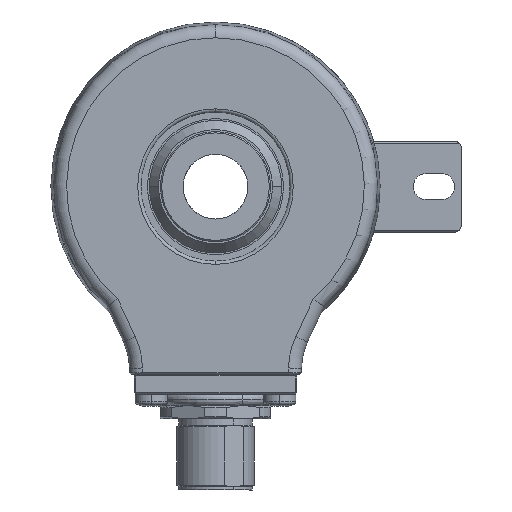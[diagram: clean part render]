
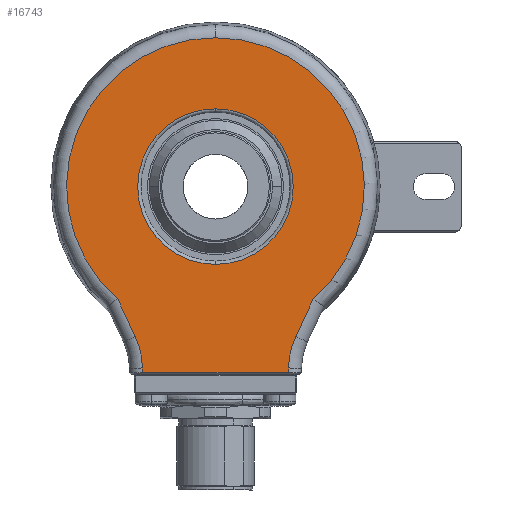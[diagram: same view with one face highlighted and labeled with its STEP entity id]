
A CAD part, left-side view. The second image highlights one B-rep face of the part: STEP entity #16743.
In plain terms, the highlighted planar face has unit normal (-1, 0, 0).
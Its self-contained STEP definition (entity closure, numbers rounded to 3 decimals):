
#173 = DIRECTION ( 'NONE',  ( 0., 0., 1. ) ) ;
#455 = ORIENTED_EDGE ( 'NONE', *, *, #21851, .T. ) ;
#789 = LINE ( 'NONE', #3623, #10802 ) ;
#882 = PLANE ( 'NONE',  #2662 ) ;
#1188 = VERTEX_POINT ( 'NONE', #14754 ) ;
#1635 = ORIENTED_EDGE ( 'NONE', *, *, #19167, .T. ) ;
#1773 = CARTESIAN_POINT ( 'NONE',  ( -21., 11.268, -27.974 ) ) ;
#2348 = VERTEX_POINT ( 'NONE', #17985 ) ;
#2497 = CARTESIAN_POINT ( 'NONE',  ( -21., 0., 0. ) ) ;
#2662 = AXIS2_PLACEMENT_3D ( 'NONE', #24840, #2837, #2915 ) ;
#2837 = DIRECTION ( 'NONE',  ( 1., 0., 0. ) ) ;
#2889 = DIRECTION ( 'NONE',  ( 0., -0.423, 0.906 ) ) ;
#2915 = DIRECTION ( 'NONE',  ( 0., 0., 1. ) ) ;
#2980 = CIRCLE ( 'NONE', #17815, 22.972 ) ;
#3000 = CIRCLE ( 'NONE', #10569, 12. ) ;
#3441 = CARTESIAN_POINT ( 'NONE',  ( -21., 0., 0. ) ) ;
#3623 = CARTESIAN_POINT ( 'NONE',  ( -21., -11.752, -0.205 ) ) ;
#4454 = CIRCLE ( 'NONE', #6305, 12. ) ;
#4520 = DIRECTION ( 'NONE',  ( 0., 0., 1. ) ) ;
#4675 = CIRCLE ( 'NONE', #21587, 12. ) ;
#4890 = VECTOR ( 'NONE', #2889, 1000. ) ;
#5021 = EDGE_CURVE ( 'NONE', #19527, #25865, #10044, .T. ) ;
#5454 = DIRECTION ( 'NONE',  ( 0., 0., 1. ) ) ;
#5725 = CARTESIAN_POINT ( 'NONE',  ( -21., 23.266, -28.183 ) ) ;
#6164 = CARTESIAN_POINT ( 'NONE',  ( -21., 0., 0. ) ) ;
#6201 = VECTOR ( 'NONE', #21704, 1000. ) ;
#6305 = AXIS2_PLACEMENT_3D ( 'NONE', #5725, #19715, #7711 ) ;
#7120 = CARTESIAN_POINT ( 'NONE',  ( -21., -11.255, -28.695 ) ) ;
#7698 = CARTESIAN_POINT ( 'NONE',  ( -21., 12.39, -23.112 ) ) ;
#7700 = ORIENTED_EDGE ( 'NONE', *, *, #23370, .T. ) ;
#7711 = DIRECTION ( 'NONE',  ( 0., 0., 1. ) ) ;
#7771 = CARTESIAN_POINT ( 'NONE',  ( -21., 12.39, -23.112 ) ) ;
#7945 = VERTEX_POINT ( 'NONE', #14803 ) ;
#8172 = DIRECTION ( 'NONE',  ( 0., 0., 1. ) ) ;
#8524 = VERTEX_POINT ( 'NONE', #1773 ) ;
#8728 = ORIENTED_EDGE ( 'NONE', *, *, #25199, .T. ) ;
#8977 = CARTESIAN_POINT ( 'NONE',  ( -21., -12.39, -23.112 ) ) ;
#9460 = CIRCLE ( 'NONE', #21720, 12. ) ;
#9463 = EDGE_CURVE ( 'NONE', #10718, #2348, #20248, .T. ) ;
#9547 = LINE ( 'NONE', #17565, #24828 ) ;
#9583 = CARTESIAN_POINT ( 'NONE',  ( -21., 15.091, -17.32 ) ) ;
#10044 = CIRCLE ( 'NONE', #11495, 22.972 ) ;
#10102 = ORIENTED_EDGE ( 'NONE', *, *, #22785, .T. ) ;
#10104 = VERTEX_POINT ( 'NONE', #7120 ) ;
#10117 = DIRECTION ( 'NONE',  ( 0., -0.017, -1. ) ) ;
#10569 = AXIS2_PLACEMENT_3D ( 'NONE', #24143, #12164, #173 ) ;
#10718 = VERTEX_POINT ( 'NONE', #8977 ) ;
#10802 = VECTOR ( 'NONE', #13583, 1000. ) ;
#10946 = EDGE_CURVE ( 'NONE', #2348, #19527, #2980, .T. ) ;
#11487 = CARTESIAN_POINT ( 'NONE',  ( -21., 0., 22.972 ) ) ;
#11491 = LINE ( 'NONE', #7698, #6201 ) ;
#11495 = AXIS2_PLACEMENT_3D ( 'NONE', #6164, #20168, #8172 ) ;
#11584 = DIRECTION ( 'NONE',  ( 0., -1., 0. ) ) ;
#11680 = FACE_OUTER_BOUND ( 'NONE', #14691, .T. ) ;
#11734 = CARTESIAN_POINT ( 'NONE',  ( -21., 0., 0. ) ) ;
#12164 = DIRECTION ( 'NONE',  ( 1., 0., 0. ) ) ;
#13488 = ORIENTED_EDGE ( 'NONE', *, *, #9463, .T. ) ;
#13583 = DIRECTION ( 'NONE',  ( 0., -0.017, 1. ) ) ;
#13600 = EDGE_CURVE ( 'NONE', #13642, #1188, #9460, .T. ) ;
#13642 = VERTEX_POINT ( 'NONE', #13944 ) ;
#13762 = DIRECTION ( 'NONE',  ( 0., 0., 1. ) ) ;
#13944 = CARTESIAN_POINT ( 'NONE',  ( -21., 0., -12. ) ) ;
#14691 = EDGE_LOOP ( 'NONE', ( #1635, #10102, #15407, #455, #13488, #19302, #23983, #25320, #7700 ) ) ;
#14754 = CARTESIAN_POINT ( 'NONE',  ( -21., 0., 12. ) ) ;
#14803 = CARTESIAN_POINT ( 'NONE',  ( -21., -11.268, -27.974 ) ) ;
#15407 = ORIENTED_EDGE ( 'NONE', *, *, #21668, .T. ) ;
#15580 = VERTEX_POINT ( 'NONE', #23603 ) ;
#15622 = VERTEX_POINT ( 'NONE', #7771 ) ;
#16480 = DIRECTION ( 'NONE',  ( -1., 0., 0. ) ) ;
#16570 = LINE ( 'NONE', #22125, #22533 ) ;
#16743 = ADVANCED_FACE ( 'NONE', ( #17656, #11680 ), #882, .F. ) ;
#17005 = EDGE_LOOP ( 'NONE', ( #8728, #24278 ) ) ;
#17430 = DIRECTION ( 'NONE',  ( 1., 0., 0. ) ) ;
#17565 = CARTESIAN_POINT ( 'NONE',  ( -21., -11.25, -28.695 ) ) ;
#17656 = FACE_BOUND ( 'NONE', #17005, .T. ) ;
#17815 = AXIS2_PLACEMENT_3D ( 'NONE', #2497, #16480, #4520 ) ;
#17985 = CARTESIAN_POINT ( 'NONE',  ( -21., -15.091, -17.32 ) ) ;
#19167 = EDGE_CURVE ( 'NONE', #8524, #15580, #16570, .T. ) ;
#19302 = ORIENTED_EDGE ( 'NONE', *, *, #10946, .T. ) ;
#19527 = VERTEX_POINT ( 'NONE', #11487 ) ;
#19715 = DIRECTION ( 'NONE',  ( 1., 0., 0. ) ) ;
#20168 = DIRECTION ( 'NONE',  ( -1., 0., 0. ) ) ;
#20248 = LINE ( 'NONE', #22825, #4890 ) ;
#20531 = EDGE_CURVE ( 'NONE', #25865, #15622, #11491, .T. ) ;
#21587 = AXIS2_PLACEMENT_3D ( 'NONE', #3441, #17430, #5454 ) ;
#21668 = EDGE_CURVE ( 'NONE', #10104, #7945, #789, .T. ) ;
#21704 = DIRECTION ( 'NONE',  ( 0., -0.423, -0.906 ) ) ;
#21720 = AXIS2_PLACEMENT_3D ( 'NONE', #11734, #25707, #13762 ) ;
#21851 = EDGE_CURVE ( 'NONE', #7945, #10718, #3000, .T. ) ;
#22125 = CARTESIAN_POINT ( 'NONE',  ( -21., 11.752, -0.205 ) ) ;
#22533 = VECTOR ( 'NONE', #10117, 1000. ) ;
#22785 = EDGE_CURVE ( 'NONE', #15580, #10104, #9547, .T. ) ;
#22825 = CARTESIAN_POINT ( 'NONE',  ( -21., -14.953, -17.615 ) ) ;
#23370 = EDGE_CURVE ( 'NONE', #15622, #8524, #4454, .T. ) ;
#23603 = CARTESIAN_POINT ( 'NONE',  ( -21., 11.255, -28.695 ) ) ;
#23983 = ORIENTED_EDGE ( 'NONE', *, *, #5021, .T. ) ;
#24143 = CARTESIAN_POINT ( 'NONE',  ( -21., -23.266, -28.183 ) ) ;
#24278 = ORIENTED_EDGE ( 'NONE', *, *, #13600, .T. ) ;
#24828 = VECTOR ( 'NONE', #11584, 1000. ) ;
#24840 = CARTESIAN_POINT ( 'NONE',  ( -21., 0., 0. ) ) ;
#25199 = EDGE_CURVE ( 'NONE', #1188, #13642, #4675, .T. ) ;
#25320 = ORIENTED_EDGE ( 'NONE', *, *, #20531, .T. ) ;
#25707 = DIRECTION ( 'NONE',  ( 1., 0., 0. ) ) ;
#25865 = VERTEX_POINT ( 'NONE', #9583 ) ;
